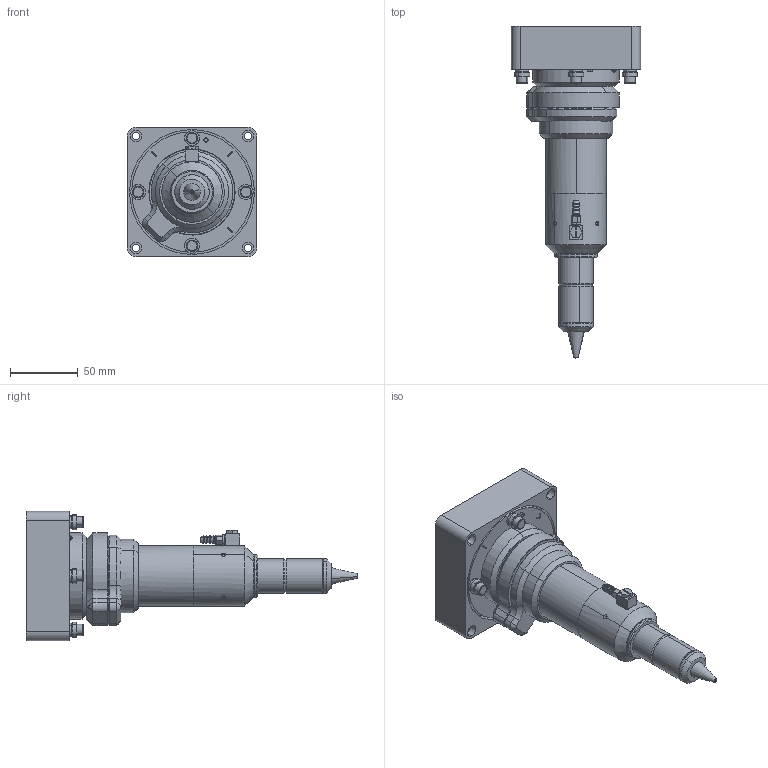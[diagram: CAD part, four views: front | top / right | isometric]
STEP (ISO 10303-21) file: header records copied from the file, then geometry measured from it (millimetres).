
FILE_DESCRIPTION (( 'STEP AP214' ), '1' );
FILE_NAME ('ILH-19-25-100.STEP', '2018-05-15T15:48:56', ( '' ), ( '' ), 'SwSTEP 2.0', 'SolidWorks 2018', '' );
FILE_SCHEMA (( 'AUTOMOTIVE_DESIGN' ));
Length unit declared in the file: inch
Products named in the file (1): ILH-19-25-100
Bounding box: 95.25 x 244.63 x 95.25 mm (x, y, z)
Volume: 584054.9 mm3; surface area: 74217.2 mm2
Topology: 1 solids, 1 shells, 447 faces, 994 edges, 575 vertices
Faces by surface type: cylinder 150, plane 113, torus 71, cone 67, bspline 24, sphere 22
Entity records: 21501 total; most frequent: CARTESIAN_POINT 11481, DIRECTION 2278, ORIENTED_EDGE 1936, EDGE_CURVE 968, AXIS2_PLACEMENT_3D 964, VERTEX_POINT 573, CIRCLE 540, EDGE_LOOP 531
